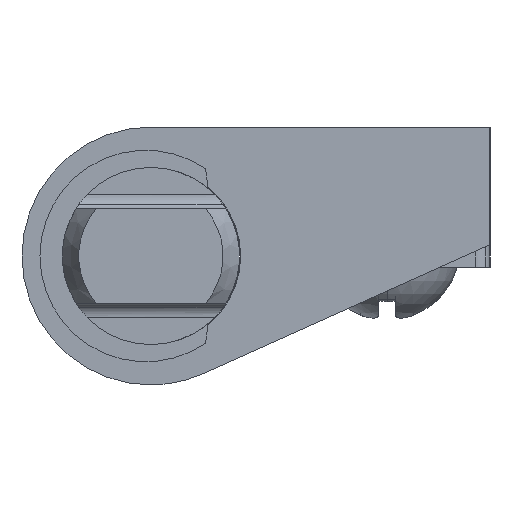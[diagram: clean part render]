
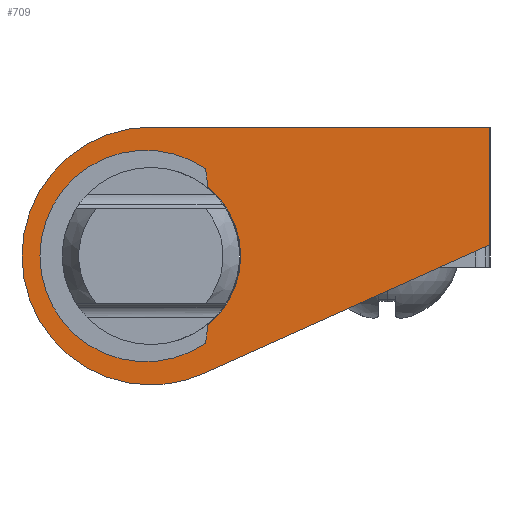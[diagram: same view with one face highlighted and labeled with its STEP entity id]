
A CAD part, left-side view. The second image highlights one B-rep face of the part: STEP entity #709.
In plain terms, the highlighted planar face has unit normal (-1, 0, 0).
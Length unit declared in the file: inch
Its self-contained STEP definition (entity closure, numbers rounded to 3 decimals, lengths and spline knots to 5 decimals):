
#709=ADVANCED_FACE('',(#1438,#1439),#1440,.F.);
#1438=FACE_OUTER_BOUND('',#2205,.T.);
#1439=FACE_BOUND('',#2206,.T.);
#1440=PLANE('',#2207);
#2205=EDGE_LOOP('',(#4133,#4134,#4135,#4136,#4137));
#2206=EDGE_LOOP('',(#4138,#4139));
#2207=AXIS2_PLACEMENT_3D('',#4140,#4141,#4142);
#4133=ORIENTED_EDGE('',*,*,#4960,.F.);
#4134=ORIENTED_EDGE('',*,*,#5046,.F.);
#4135=ORIENTED_EDGE('',*,*,#5138,.F.);
#4136=ORIENTED_EDGE('',*,*,#5107,.F.);
#4137=ORIENTED_EDGE('',*,*,#5103,.F.);
#4138=ORIENTED_EDGE('',*,*,#5095,.F.);
#4139=ORIENTED_EDGE('',*,*,#4818,.F.);
#4140=CARTESIAN_POINT('',(-10.67785,1.84485,0.02924));
#4141=DIRECTION('',(1.0,0.0,0.));
#4142=DIRECTION('',(0.,0.0,-1.0));
#4818=EDGE_CURVE('',#5927,#5929,#5930,.T.);
#4960=EDGE_CURVE('',#6123,#6125,#6126,.T.);
#5046=EDGE_CURVE('',#6237,#6123,#6239,.T.);
#5095=EDGE_CURVE('',#5929,#5927,#6300,.T.);
#5103=EDGE_CURVE('',#6125,#6308,#6310,.T.);
#5107=EDGE_CURVE('',#6308,#6314,#6315,.T.);
#5138=EDGE_CURVE('',#6314,#6237,#6352,.T.);
#5927=VERTEX_POINT('',#7488);
#5929=VERTEX_POINT('',#7491);
#5930=CIRCLE('',#7492,0.19);
#6123=VERTEX_POINT('',#7770);
#6125=VERTEX_POINT('',#7773);
#6126=LINE('',#7774,#7775);
#6237=VERTEX_POINT('',#7958);
#6239=LINE('',#7961,#7962);
#6300=CIRCLE('',#8060,0.19);
#6308=VERTEX_POINT('',#8071);
#6310=CIRCLE('',#8074,0.273);
#6314=VERTEX_POINT('',#8078);
#6315=CIRCLE('',#8079,0.273);
#6352=LINE('',#8146,#8147);
#7488=CARTESIAN_POINT('',(-10.67785,2.,0.19));
#7491=CARTESIAN_POINT('',(-10.67785,2.,-0.19));
#7492=AXIS2_PLACEMENT_3D('',#8876,#8877,#8878);
#7770=CARTESIAN_POINT('',(-10.67785,1.282,0.02362));
#7773=CARTESIAN_POINT('',(-10.67785,1.88801,-0.24897));
#7774=CARTESIAN_POINT('',(-10.67785,1.282,0.02362));
#7775=VECTOR('',#9052,0.3937);
#7958=CARTESIAN_POINT('',(-10.67785,1.282,0.273));
#7961=CARTESIAN_POINT('',(-10.67785,1.282,0.273));
#7962=VECTOR('',#9160,0.3937);
#8060=AXIS2_PLACEMENT_3D('',#9214,#9215,#9216);
#8071=CARTESIAN_POINT('',(-10.67785,2.,-0.273));
#8074=AXIS2_PLACEMENT_3D('',#9221,#9222,#9223);
#8078=CARTESIAN_POINT('',(-10.67785,2.,0.273));
#8079=AXIS2_PLACEMENT_3D('',#9227,#9228,#9229);
#8146=CARTESIAN_POINT('',(-10.67785,2.,0.273));
#8147=VECTOR('',#9268,0.3937);
#8876=CARTESIAN_POINT('',(-10.67785,2.,0.));
#8877=DIRECTION('',(-1.0,0.0,0.));
#8878=DIRECTION('',(0.,0.0,1.0));
#9052=DIRECTION('',(0.,0.912,-0.41));
#9160=DIRECTION('',(0.,0.,-1.0));
#9214=CARTESIAN_POINT('',(-10.67785,2.,0.));
#9215=DIRECTION('',(-1.0,0.0,0.));
#9216=DIRECTION('',(0.,0.0,1.0));
#9221=CARTESIAN_POINT('',(-10.67785,2.,0.));
#9222=DIRECTION('',(1.0,0.0,0.));
#9223=DIRECTION('',(0.,0.0,-1.0));
#9227=CARTESIAN_POINT('',(-10.67785,2.,0.));
#9228=DIRECTION('',(1.0,0.0,0.));
#9229=DIRECTION('',(0.,0.0,-1.0));
#9268=DIRECTION('',(0.0,-1.0,-0.0));
